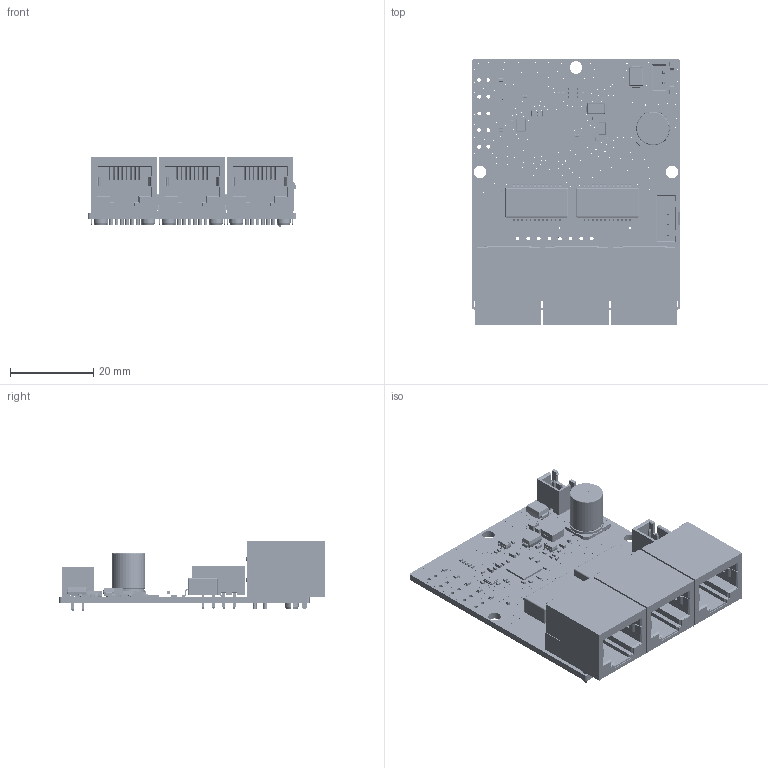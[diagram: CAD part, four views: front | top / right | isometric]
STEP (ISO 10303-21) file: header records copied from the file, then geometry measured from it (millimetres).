
FILE_DESCRIPTION(('Designed by EasyEDA Pro'),'2;1');
FILE_NAME('Open CASCADE Shape Model','2026-07-22T11:56:13',('Author'),( 'Open CASCADE'),'Open CASCADE STEP processor 7.8','Open CASCADE 7.8' ,'Unknown');
FILE_SCHEMA(('AUTOMOTIVE_DESIGN { 1 0 10303 214 1 1 1 1 }'));
Length unit declared in the file: millimetre
Products named in the file (556): EasyEDA PCB Model~rXBF; Board~rXBF; TopCopper~rXBF; BottomCopper~rXBF; TopSilkscreen~rXBF; BottomSilkscreen~rXBF; TopFpcStiffener~rXBF; BottomFpcStiffener~rXBF; C33~1206~C1206_L3.2-W1.6-H1.3_1~rXBF; 1206~C1206_L3.2-W1.6-H1.3_1~rXBF; C18~1206~C1206_L3.2-W1.6-H1.3_1~rXBF; C0402~C0402~JzBh; C15~C0402~C0402~HQRa; C2~C0402~C0402~5gs0; C7~C0402~C0402~9EKk; C36~C0402~C0402~9ZJ0; C40~C0402~C0402~kYPN; C42~C0402~C0402~EjN1; C43~C0402~C0402~57gA; C45~C0402~C0402~pS6N; C46~C0402~C0402~pl3U; C47~C0402~C0402~TSYu; C50~C0402~C0402~yD3U; C51~C0402~C0402~DzVx; C52~C0402~C0402~QErf; C53~C0402~C0402~41Gl; C55~C0402~C0402~KQAb; C60~C0402~C0402~zjS7; C14~C0402~C0402~ahL9; C12~C0402~C0402~v4Nv; C1~C0402~C0402~aUGe; C9~C0402~C0402~NVsl; C30~C0402~C0402~04An; C0603~C0603~rBJc; C4~C0603~C0603~a1FC; C3~C0603~C0603~63lc; C5~C0603~C0603~wbun; C25~C0603~C0603~ZgBA; C11~C0603~C0603~ySoM; R0402~R0402_L1.0-W0.5-H0.5_NTC~Wq9V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
Assembly tree (600 placements, depth 3):
  EasyEDA PCB Model~rXBF
    Board~rXBF
    TopCopper~rXBF
      TopCopper~rXBF
      TopCopper~rXBF
      TopCopper~rXBF
      TopCopper~rXBF
      TopCopper~rXBF
      TopCopper~rXBF
      TopCopper~rXBF
      TopCopper~rXBF
      TopCopper~rXBF
      TopCopper~rXBF
      TopCopper~rXBF
      TopCopper~rXBF
      TopCopper~rXBF
      TopCopper~rXBF
      TopCopper~rXBF
      TopCopper~rXBF
      TopCopper~rXBF
      TopCopper~rXBF
      TopCopper~rXBF
      TopCopper~rXBF
      TopCopper~rXBF
      TopCopper~rXBF
      TopCopper~rXBF
      TopCopper~rXBF
      TopCopper~rXBF
      TopCopper~rXBF
      TopCopper~rXBF
      TopCopper~rXBF
      TopCopper~rXBF
      TopCopper~rXBF
      TopCopper~rXBF
      TopCopper~rXBF
      TopCopper~rXBF
      TopCopper~rXBF
      TopCopper~rXBF
      TopCopper~rXBF
      TopCopper~rXBF
      TopCopper~rXBF
      TopCopper~rXBF
      TopCopper~rXBF
      TopCopper~rXBF
      TopCopper~rXBF
      TopCopper~rXBF
      TopCopper~rXBF
      TopCopper~rXBF
      TopCopper~rXBF
      TopCopper~rXBF
      TopCopper~rXBF
      TopCopper~rXBF
      TopCopper~rXBF
      TopCopper~rXBF
      TopCopper~rXBF
      TopCopper~rXBF
      TopCopper~rXBF
      TopCopper~rXBF
      TopCopper~rXBF
      TopCopper~rXBF
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Bounding box: 49.97 x 63.64 x 16.9 mm (x, y, z)
Volume: 14949.8 mm3; surface area: 25882.8 mm2
Topology: 297 solids, 766 shells, 24076 faces, 97495 edges, 75652 vertices
Faces by surface type: plane 13737, bspline 6594, cylinder 3300, sphere 354, torus 63, cone 28
Full cylindrical faces by diameter (mm): 0.8 x4, 7.5 x1, 8 x2
Entity records: 635998 total; most frequent: CARTESIAN_POINT 148525, ORIENTED_EDGE 75705, DIRECTION 71678, EDGE_CURVE 55040, VERTEX_POINT 48098, LINE 43954, VECTOR 43954, AXIS2_PLACEMENT_3D 13862
